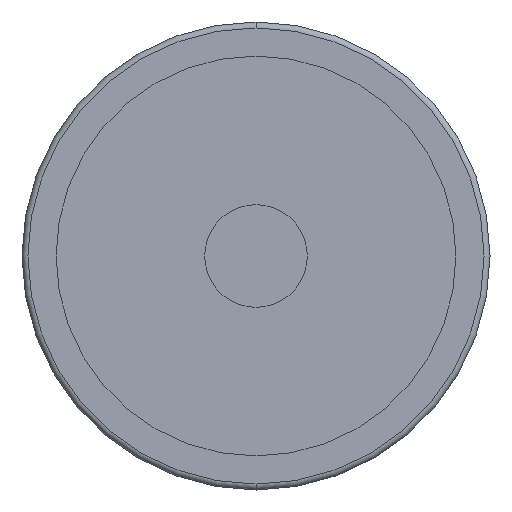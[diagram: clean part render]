
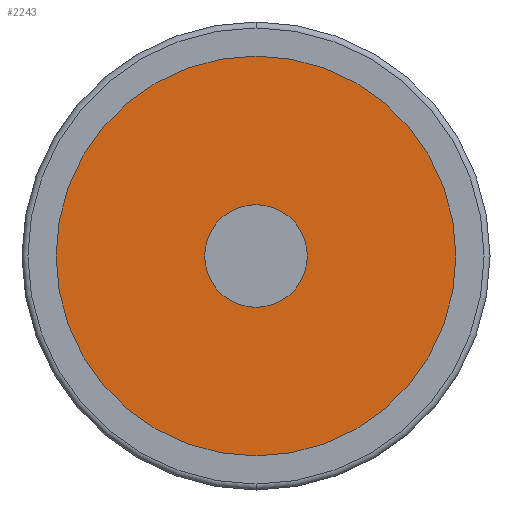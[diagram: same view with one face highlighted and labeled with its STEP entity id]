
A CAD part, front view. The second image highlights one B-rep face of the part: STEP entity #2243.
In plain terms, the highlighted planar face has unit normal (0, -1, 0).
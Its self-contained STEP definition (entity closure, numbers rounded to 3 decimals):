
#12 = EDGE_LOOP ( 'NONE', ( #2905, #1855 ) ) ;
#52 = DIRECTION ( 'NONE',  ( 1., 0., 0. ) ) ;
#56 = DIRECTION ( 'NONE',  ( 0., -1., 0. ) ) ;
#123 = FACE_OUTER_BOUND ( 'NONE', #12, .T. ) ;
#132 = AXIS2_PLACEMENT_3D ( 'NONE', #3080, #821, #52 ) ;
#173 = CARTESIAN_POINT ( 'NONE',  ( 0., 4.5, 0. ) ) ;
#200 = CIRCLE ( 'NONE', #2508, 34.25 ) ;
#224 = VERTEX_POINT ( 'NONE', #1181 ) ;
#350 = AXIS2_PLACEMENT_3D ( 'NONE', #599, #56, #615 ) ;
#442 = FACE_BOUND ( 'NONE', #654, .T. ) ;
#599 = CARTESIAN_POINT ( 'NONE',  ( 0., 4.5, 0. ) ) ;
#615 = DIRECTION ( 'NONE',  ( 1., 0., 0. ) ) ;
#654 = EDGE_LOOP ( 'NONE', ( #666, #958 ) ) ;
#666 = ORIENTED_EDGE ( 'NONE', *, *, #3231, .F. ) ;
#778 = DIRECTION ( 'NONE',  ( 1., 0., 0. ) ) ;
#785 = CARTESIAN_POINT ( 'NONE',  ( -8., 4.5, 0. ) ) ;
#800 = CARTESIAN_POINT ( 'NONE',  ( 0., 4.5, 0. ) ) ;
#821 = DIRECTION ( 'NONE',  ( 0., -1., 0. ) ) ;
#892 = VERTEX_POINT ( 'NONE', #785 ) ;
#908 = CIRCLE ( 'NONE', #1173, 8. ) ;
#913 = VERTEX_POINT ( 'NONE', #1027 ) ;
#958 = ORIENTED_EDGE ( 'NONE', *, *, #2847, .F. ) ;
#1020 = DIRECTION ( 'NONE',  ( 0., -1., 0. ) ) ;
#1027 = CARTESIAN_POINT ( 'NONE',  ( -34.25, 4.5, 0. ) ) ;
#1172 = DIRECTION ( 'NONE',  ( 1., 0., 0. ) ) ;
#1173 = AXIS2_PLACEMENT_3D ( 'NONE', #800, #1020, #778 ) ;
#1181 = CARTESIAN_POINT ( 'NONE',  ( 8., 4.5, 0. ) ) ;
#1551 = CARTESIAN_POINT ( 'NONE',  ( 34.25, 4.5, 0. ) ) ;
#1763 = CIRCLE ( 'NONE', #350, 34.25 ) ;
#1764 = AXIS2_PLACEMENT_3D ( 'NONE', #3178, #3165, #3150 ) ;
#1855 = ORIENTED_EDGE ( 'NONE', *, *, #2009, .T. ) ;
#2009 = EDGE_CURVE ( 'NONE', #2124, #913, #1763, .T. ) ;
#2124 = VERTEX_POINT ( 'NONE', #1551 ) ;
#2243 = ADVANCED_FACE ( 'NONE', ( #123, #442 ), #3195, .T. ) ;
#2293 = EDGE_CURVE ( 'NONE', #913, #2124, #200, .T. ) ;
#2444 = CIRCLE ( 'NONE', #132, 8. ) ;
#2508 = AXIS2_PLACEMENT_3D ( 'NONE', #173, #2680, #1172 ) ;
#2680 = DIRECTION ( 'NONE',  ( 0., -1., 0. ) ) ;
#2847 = EDGE_CURVE ( 'NONE', #892, #224, #908, .T. ) ;
#2905 = ORIENTED_EDGE ( 'NONE', *, *, #2293, .T. ) ;
#3080 = CARTESIAN_POINT ( 'NONE',  ( 0., 4.5, 0. ) ) ;
#3150 = DIRECTION ( 'NONE',  ( 1., 0., 0. ) ) ;
#3165 = DIRECTION ( 'NONE',  ( 0., -1., 0. ) ) ;
#3178 = CARTESIAN_POINT ( 'NONE',  ( -34.25, 4.5, 0. ) ) ;
#3195 = PLANE ( 'NONE',  #1764 ) ;
#3231 = EDGE_CURVE ( 'NONE', #224, #892, #2444, .T. ) ;
